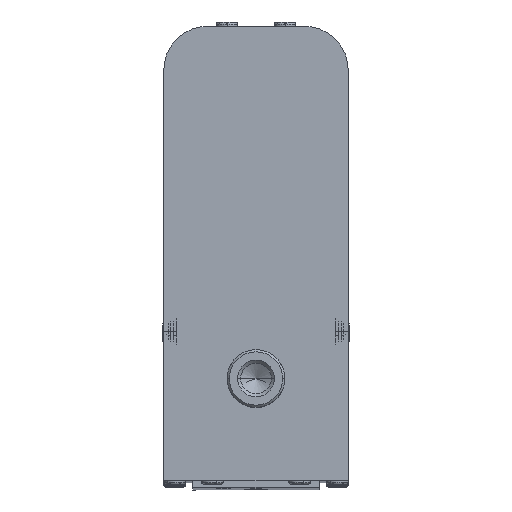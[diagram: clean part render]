
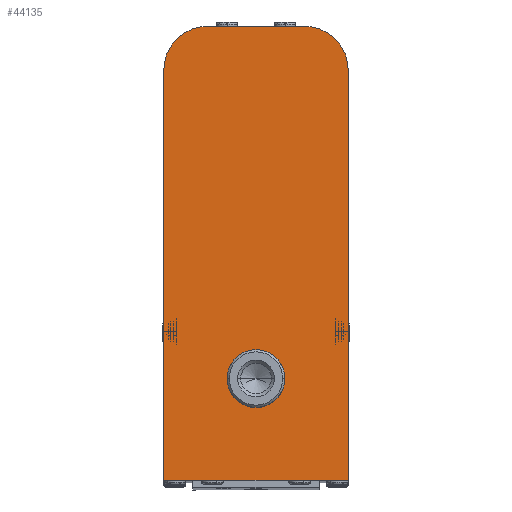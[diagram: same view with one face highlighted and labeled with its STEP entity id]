
A CAD part, top view. The second image highlights one B-rep face of the part: STEP entity #44135.
In plain terms, the highlighted planar face has unit normal (0, 0, 1).
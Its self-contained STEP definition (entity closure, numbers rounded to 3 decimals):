
#716 = DIRECTION ( 'NONE',  ( 0., 0., 1. ) ) ;
#909 = DIRECTION ( 'NONE',  ( -1., 0., 0. ) ) ;
#1784 = EDGE_CURVE ( 'NONE', #18405, #39082, #27206, .T. ) ;
#2300 = VERTEX_POINT ( 'NONE', #39786 ) ;
#2779 = EDGE_CURVE ( 'NONE', #18405, #40196, #52020, .T. ) ;
#3140 = FACE_BOUND ( 'NONE', #24937, .T. ) ;
#3614 = CARTESIAN_POINT ( 'NONE',  ( 0., -10.446, 0. ) ) ;
#3946 = DIRECTION ( 'NONE',  ( 1., 0., 0. ) ) ;
#5623 = AXIS2_PLACEMENT_3D ( 'NONE', #34975, #14725, #51017 ) ;
#6882 = ORIENTED_EDGE ( 'NONE', *, *, #39031, .T. ) ;
#8140 = VERTEX_POINT ( 'NONE', #43022 ) ;
#8563 = EDGE_CURVE ( 'NONE', #12072, #14972, #9893, .T. ) ;
#8703 = CARTESIAN_POINT ( 'NONE',  ( 12.7, -24.4, 0. ) ) ;
#8771 = CARTESIAN_POINT ( 'NONE',  ( -12.7, 38.1, 0. ) ) ;
#9893 = CIRCLE ( 'NONE', #26687, 3.969 ) ;
#11141 = AXIS2_PLACEMENT_3D ( 'NONE', #12117, #40770, #3946 ) ;
#12072 = VERTEX_POINT ( 'NONE', #24868 ) ;
#12117 = CARTESIAN_POINT ( 'NONE',  ( -6.7, 32.1, 0. ) ) ;
#12143 = DIRECTION ( 'NONE',  ( -1., 0., 0. ) ) ;
#12755 = DIRECTION ( 'NONE',  ( 1., 0., 0. ) ) ;
#13146 = CARTESIAN_POINT ( 'NONE',  ( 3.969, -10.446, 0. ) ) ;
#13224 = AXIS2_PLACEMENT_3D ( 'NONE', #3614, #716, #16755 ) ;
#14725 = DIRECTION ( 'NONE',  ( 0., 0., 1. ) ) ;
#14972 = VERTEX_POINT ( 'NONE', #13146 ) ;
#15380 = DIRECTION ( 'NONE',  ( 0., -1., 0. ) ) ;
#15923 = VECTOR ( 'NONE', #909, 1000. ) ;
#16361 = VERTEX_POINT ( 'NONE', #18955 ) ;
#16466 = EDGE_CURVE ( 'NONE', #16361, #8140, #19526, .T. ) ;
#16597 = LINE ( 'NONE', #37096, #23789 ) ;
#16755 = DIRECTION ( 'NONE',  ( 1., 0., 0. ) ) ;
#16950 = LINE ( 'NONE', #41418, #15923 ) ;
#17331 = ORIENTED_EDGE ( 'NONE', *, *, #28918, .F. ) ;
#17999 = VECTOR ( 'NONE', #49003, 1000. ) ;
#18405 = VERTEX_POINT ( 'NONE', #34391 ) ;
#18662 = PLANE ( 'NONE',  #5623 ) ;
#18801 = CARTESIAN_POINT ( 'NONE',  ( 12.7, 38.1, 0. ) ) ;
#18955 = CARTESIAN_POINT ( 'NONE',  ( -6.7, 38.1, 0. ) ) ;
#19526 = CIRCLE ( 'NONE', #11141, 6. ) ;
#23789 = VECTOR ( 'NONE', #12143, 1000. ) ;
#24233 = EDGE_LOOP ( 'NONE', ( #32862, #17331, #40011, #49459, #6882, #50566 ) ) ;
#24788 = LINE ( 'NONE', #8771, #17999 ) ;
#24868 = CARTESIAN_POINT ( 'NONE',  ( -3.969, -10.446, 0. ) ) ;
#24937 = EDGE_LOOP ( 'NONE', ( #32186, #34422 ) ) ;
#26687 = AXIS2_PLACEMENT_3D ( 'NONE', #28504, #48766, #12755 ) ;
#27011 = EDGE_CURVE ( 'NONE', #14972, #12072, #40922, .T. ) ;
#27206 = LINE ( 'NONE', #18801, #41369 ) ;
#28504 = CARTESIAN_POINT ( 'NONE',  ( 0., -10.446, 0. ) ) ;
#28757 = CARTESIAN_POINT ( 'NONE',  ( 6.7, 38.1, 0. ) ) ;
#28918 = EDGE_CURVE ( 'NONE', #39082, #2300, #16950, .T. ) ;
#30779 = FACE_OUTER_BOUND ( 'NONE', #24233, .T. ) ;
#32186 = ORIENTED_EDGE ( 'NONE', *, *, #8563, .F. ) ;
#32862 = ORIENTED_EDGE ( 'NONE', *, *, #50159, .T. ) ;
#34391 = CARTESIAN_POINT ( 'NONE',  ( 12.7, 32.1, 0. ) ) ;
#34422 = ORIENTED_EDGE ( 'NONE', *, *, #27011, .F. ) ;
#34975 = CARTESIAN_POINT ( 'NONE',  ( 0., 0., 0. ) ) ;
#37096 = CARTESIAN_POINT ( 'NONE',  ( 12.7, 38.1, 0. ) ) ;
#37527 = CARTESIAN_POINT ( 'NONE',  ( 6.7, 32.1, 0. ) ) ;
#39031 = EDGE_CURVE ( 'NONE', #40196, #16361, #16597, .T. ) ;
#39082 = VERTEX_POINT ( 'NONE', #8703 ) ;
#39724 = DIRECTION ( 'NONE',  ( 1., 0., 0. ) ) ;
#39786 = CARTESIAN_POINT ( 'NONE',  ( -12.7, -24.4, 0. ) ) ;
#40011 = ORIENTED_EDGE ( 'NONE', *, *, #1784, .F. ) ;
#40196 = VERTEX_POINT ( 'NONE', #28757 ) ;
#40770 = DIRECTION ( 'NONE',  ( 0., 0., 1. ) ) ;
#40922 = CIRCLE ( 'NONE', #13224, 3.969 ) ;
#41369 = VECTOR ( 'NONE', #15380, 1000. ) ;
#41418 = CARTESIAN_POINT ( 'NONE',  ( -8.7, -24.4, 0. ) ) ;
#43022 = CARTESIAN_POINT ( 'NONE',  ( -12.7, 32.1, 0. ) ) ;
#44135 = ADVANCED_FACE ( 'NONE', ( #30779, #3140 ), #18662, .T. ) ;
#48766 = DIRECTION ( 'NONE',  ( 0., 0., 1. ) ) ;
#49003 = DIRECTION ( 'NONE',  ( 0., -1., 0. ) ) ;
#49459 = ORIENTED_EDGE ( 'NONE', *, *, #2779, .T. ) ;
#49504 = AXIS2_PLACEMENT_3D ( 'NONE', #37527, #49604, #39724 ) ;
#49604 = DIRECTION ( 'NONE',  ( 0., 0., 1. ) ) ;
#50159 = EDGE_CURVE ( 'NONE', #8140, #2300, #24788, .T. ) ;
#50566 = ORIENTED_EDGE ( 'NONE', *, *, #16466, .T. ) ;
#51017 = DIRECTION ( 'NONE',  ( 1., 0., 0. ) ) ;
#52020 = CIRCLE ( 'NONE', #49504, 6. ) ;
